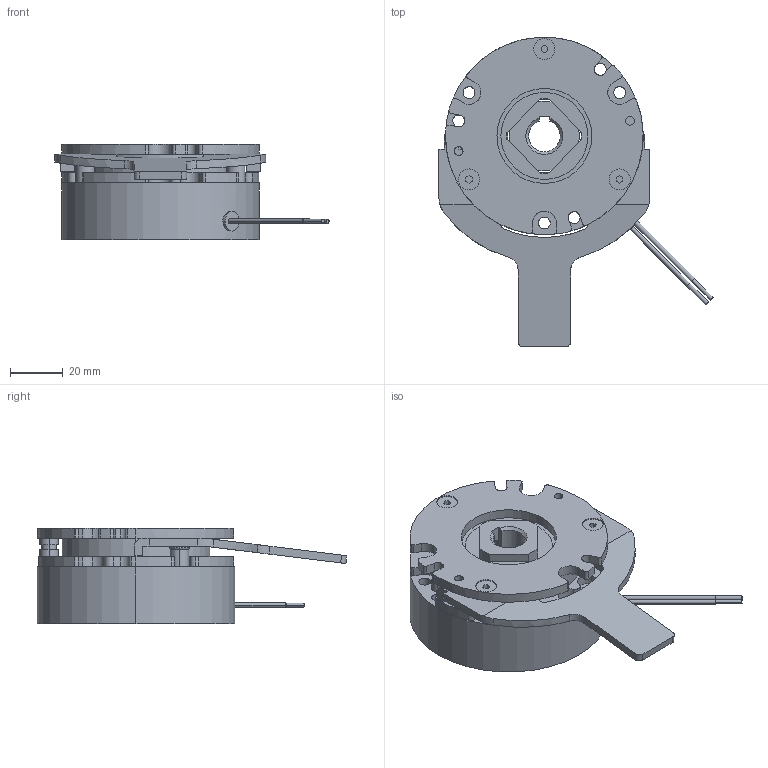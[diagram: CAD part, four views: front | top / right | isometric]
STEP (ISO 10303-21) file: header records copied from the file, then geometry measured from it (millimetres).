
FILE_DESCRIPTION (( 'STEP AP214' ), '1' );
FILE_NAME ('BXW-05-12.STEP', '2017-09-07T00:05:03', ( 'MIKI' ), ( '' ), 'SwSTEP 2.0', 'SolidWorks 2012', '' );
FILE_SCHEMA (( 'AUTOMOTIVE_DESIGN' ));
Length unit declared in the file: millimetre
Products named in the file (1): BXW-05-12
Bounding box: 104.01 x 117.5 x 36.1 mm (x, y, z)
Volume: 128543.4 mm3; surface area: 40835.8 mm2
Topology: 3 solids, 3 shells, 350 faces, 927 edges, 602 vertices
Faces by surface type: cylinder 181, plane 143, cone 18, torus 8
Entity records: 15105 total; most frequent: CARTESIAN_POINT 2174, DIRECTION 1975, ORIENTED_EDGE 1846, EDGE_CURVE 923, AXIS2_PLACEMENT_3D 731, VERTEX_POINT 602, LINE 513, VECTOR 513
